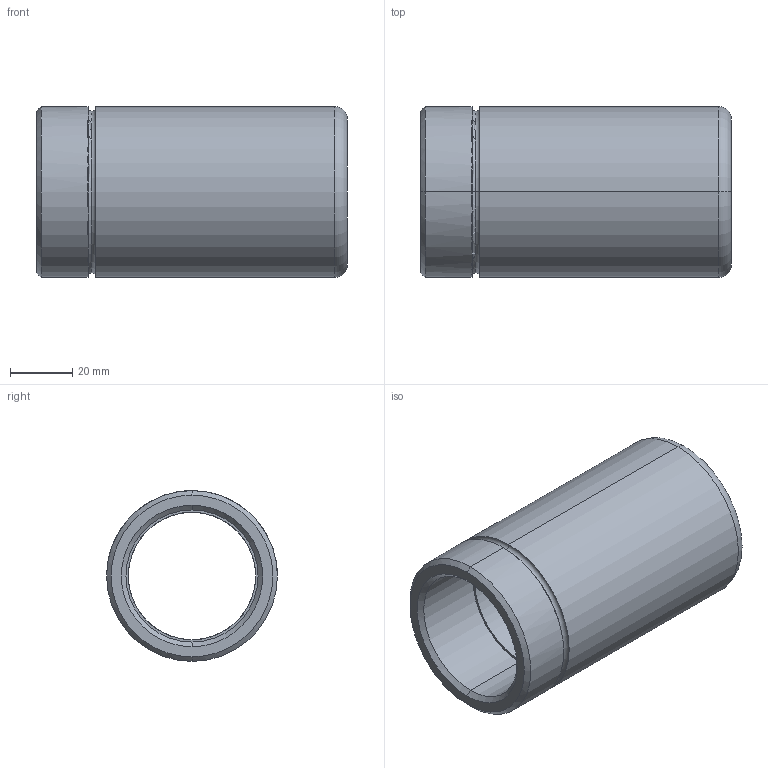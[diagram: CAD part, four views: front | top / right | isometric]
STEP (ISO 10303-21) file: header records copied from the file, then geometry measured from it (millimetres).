
FILE_DESCRIPTION(('CATIA V5 STEP Exchange'),'2;1');
FILE_NAME('C:\Users\Utente\Desktop\IO LAVORO\3D X SITO CF\X SITO\343-348\343-41 x 100.stp','2020-12-30T19:32:28+00:00',('none'),('none'),'CATIA Version 5 Release 20 GA (IN-10)','CATIA V5 STEP AP203','none');
FILE_SCHEMA(('CONFIG_CONTROL_DESIGN'));
Length unit declared in the file: millimetre
Products named in the file (1): 343-41 x 100
Bounding box: 100 x 55 x 55 mm (x, y, z)
Volume: 101261.9 mm3; surface area: 32320.7 mm2
Topology: 1 solids, 1 shells, 29 faces, 86 edges, 60 vertices
Faces by surface type: torus 12, cylinder 10, cone 4, plane 3
Entity records: 1160 total; most frequent: CARTESIAN_POINT 354, ORIENTED_EDGE 172, DIRECTION 130, AXIS2_PLACEMENT_3D 88, EDGE_CURVE 86, VERTEX_POINT 60, CIRCLE 58, EDGE_LOOP 32
